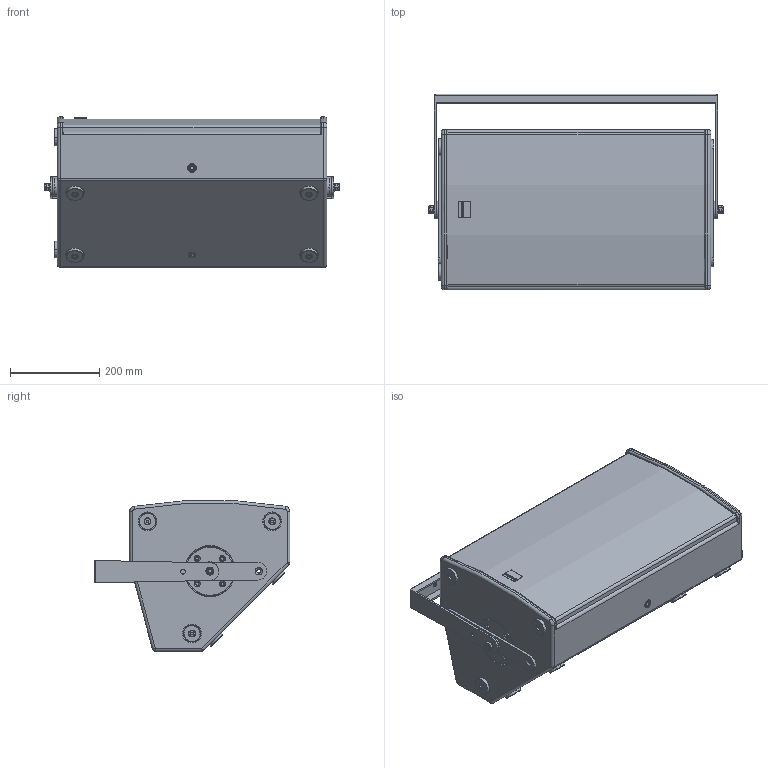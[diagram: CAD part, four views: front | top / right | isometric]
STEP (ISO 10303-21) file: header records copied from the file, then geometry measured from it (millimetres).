
FILE_DESCRIPTION (( 'STEP AP203' ), '1' );
FILE_NAME ('SEEBURG_A6_Bracket-hor.STEP', '2012-09-28T08:00:11', ( 'Fabian' ), ( '' ), 'SwSTEP 2.0', 'SolidWorks 2009', '' );
FILE_SCHEMA (( 'CONFIG_CONTROL_DESIGN' ));
Length unit declared in the file: millimetre
Products named in the file (29): Imported; Imported6; Imported5; Imported7; Imported12; Imported13; Imported18; Imported19; Imported20; Imported26; Imported25; SEEBURG_A6_Bracket-hor; A6_Bracket-hor; Imported1; Imported2; Imported3; Imported4; Imported8; Imported9; Imported10; Imported11; Imported14; Imported15; Imported16; Imported17; Imported21; Imported22; Imported23; Imported24
Assembly tree (28 placements, depth 3):
  SEEBURG_A6_Bracket-hor
    A6_Bracket-hor
      Imported25
      Imported12
      Imported24
      Imported8
      Imported10
      Imported16
      Imported14
      Imported19
      Imported7
      Imported
      Imported13
      Imported26
      Imported4
      Imported17
      Imported20
      Imported22
      Imported1
      Imported5
      Imported15
      Imported11
      Imported21
      Imported23
      Imported2
      Imported6
      Imported9
      Imported18
      Imported3
Bounding box: 662.47 x 440 x 338.41 mm (x, y, z)
Volume: 5618599.1 mm3; surface area: 2477925.5 mm2
Topology: 34 solids, 35 shells, 887 faces, 2098 edges, 1304 vertices
Faces by surface type: cylinder 373, plane 265, torus 106, cone 92, sphere 45, bspline 6
Entity records: 31828 total; most frequent: CARTESIAN_POINT 7772, DIRECTION 4753, ORIENTED_EDGE 4144, EDGE_CURVE 2076, AXIS2_PLACEMENT_3D 1917, VERTEX_POINT 1292, EDGE_LOOP 1034, CIRCLE 1003
